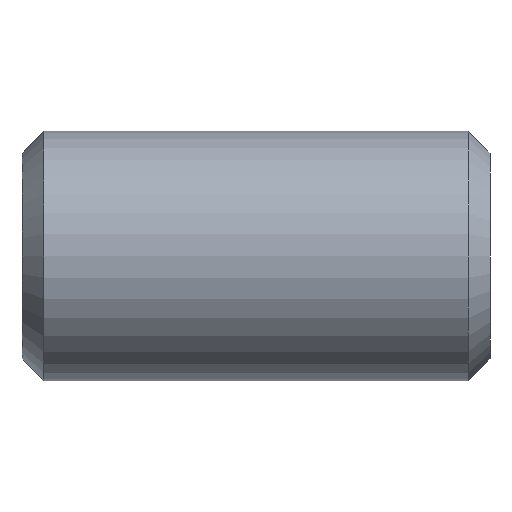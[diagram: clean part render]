
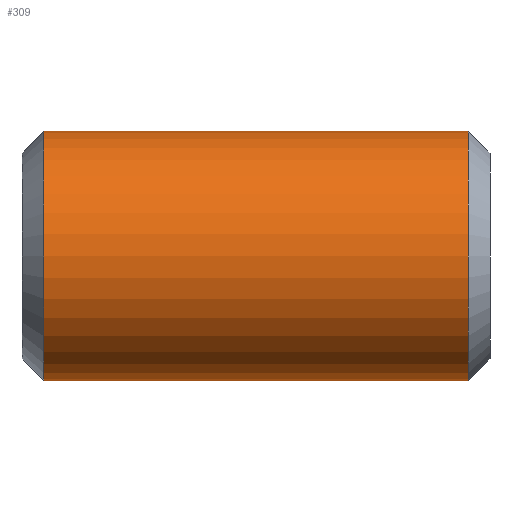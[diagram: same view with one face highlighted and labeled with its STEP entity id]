
A CAD part, left-side view. The second image highlights one B-rep face of the part: STEP entity #309.
In plain terms, the highlighted cylindrical face has radius 8 mm (diameter 16 mm), a full revolution.
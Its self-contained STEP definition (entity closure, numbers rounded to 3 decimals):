
#21=CYLINDRICAL_SURFACE('',#346,8.);
#84=ORIENTED_EDGE('',*,*,#159,.F.);
#85=ORIENTED_EDGE('',*,*,#158,.T.);
#158=EDGE_CURVE('',#196,#196,#217,.T.);
#159=EDGE_CURVE('',#197,#197,#218,.T.);
#196=VERTEX_POINT('',#494);
#197=VERTEX_POINT('',#497);
#217=CIRCLE('',#345,8.);
#218=CIRCLE('',#347,8.);
#234=EDGE_LOOP('',(#84));
#235=EDGE_LOOP('',(#85));
#264=FACE_BOUND('',#234,.T.);
#265=FACE_BOUND('',#235,.T.);
#309=ADVANCED_FACE('',(#264,#265),#21,.T.);
#345=AXIS2_PLACEMENT_3D('',#493,#392,#393);
#346=AXIS2_PLACEMENT_3D('',#495,#394,#395);
#347=AXIS2_PLACEMENT_3D('',#496,#396,#397);
#392=DIRECTION('',(0.,-1.,0.));
#393=DIRECTION('',(1.,0.,0.));
#394=DIRECTION('',(0.,-1.,0.));
#395=DIRECTION('',(1.,0.,0.));
#396=DIRECTION('',(0.,-1.,0.));
#397=DIRECTION('',(1.,0.,0.));
#493=CARTESIAN_POINT('',(0.,28.6,0.));
#494=CARTESIAN_POINT('',(8.,28.6,0.));
#495=CARTESIAN_POINT('',(0.,0.,0.));
#496=CARTESIAN_POINT('',(0.,1.4,0.));
#497=CARTESIAN_POINT('',(8.,1.4,0.));
